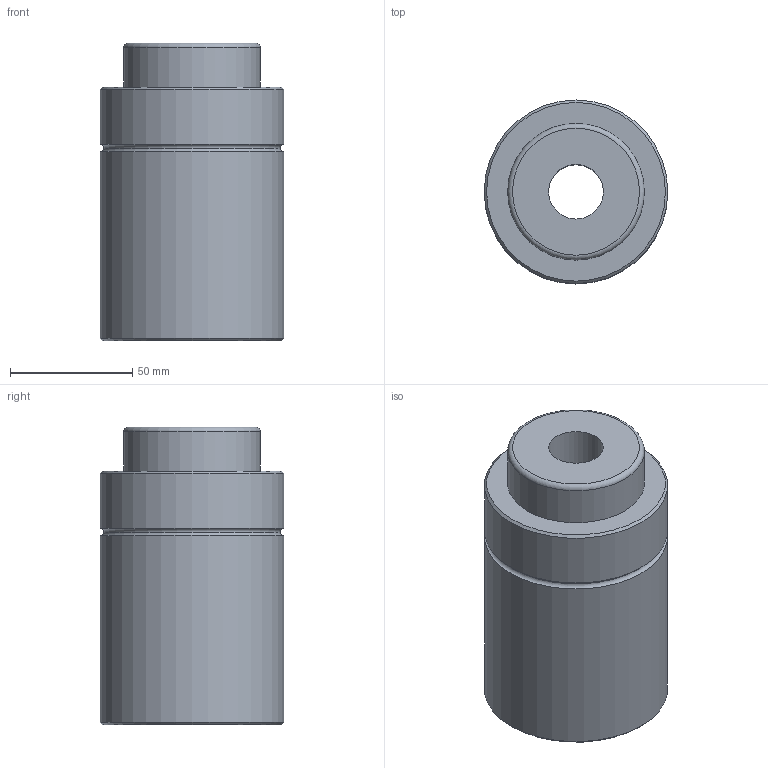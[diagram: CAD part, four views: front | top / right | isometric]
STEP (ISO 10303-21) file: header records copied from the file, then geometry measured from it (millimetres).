
FILE_DESCRIPTION(('FreeCAD Model'),'2;1');
FILE_NAME('Open CASCADE Shape Model','2024-11-14T08:43:09',('Author'),( ''),'Open CASCADE STEP processor 7.6','FreeCAD','Unknown');
FILE_SCHEMA(('AUTOMOTIVE_DESIGN { 1 0 10303 214 1 1 1 1 }'));
Length unit declared in the file: millimetre
Products named in the file (5): TPHC600x50; Part001; Fillet; Part009; Cut001
Assembly tree (4 placements, depth 3):
  TPHC600x50
    Part001
      Fillet
    Part009
      Cut001
Bounding box: 75.2 x 75.2 x 122 mm (x, y, z)
Volume: 455550.6 mm3; surface area: 49441 mm2
Topology: 2 solids, 2 shells, 24 faces, 39 edges, 24 vertices
Faces by surface type: cylinder 10, plane 9, torus 3, cone 2
Full cylindrical faces by diameter (mm): 6 x5, 22.4 x2, 56 x1, 75.2 x2
Entity records: 672 total; most frequent: DIRECTION 124, CARTESIAN_POINT 92, ORIENTED_EDGE 78, AXIS2_PLACEMENT_3D 56, EDGE_CURVE 39, FACE_BOUND 33, EDGE_LOOP 33, CIRCLE 27
